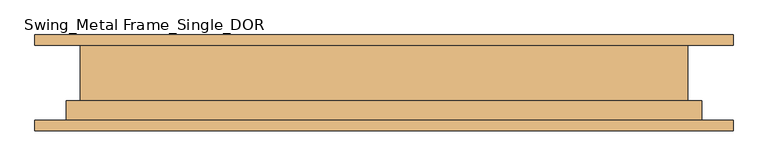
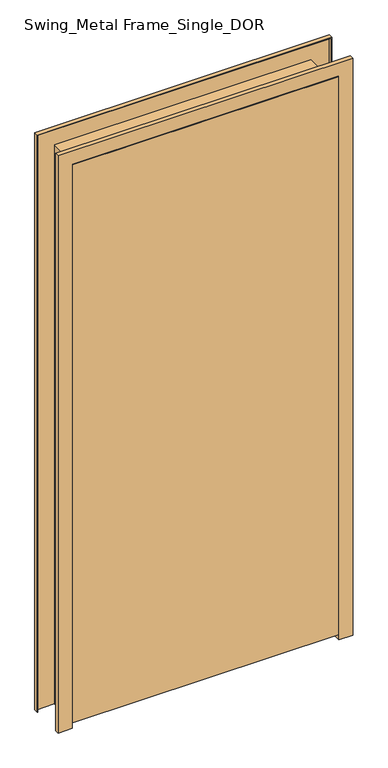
"""IFC4 building model written with IfcOpenShell, lengths in millimetres: door geometry, Swing_Metal Frame_Single_DOR : 2040h x 920 (2110x1020 STUD)."""

from ifc_helpers import new_model, si_unit, frame, origin, place, context, project, spatial, polyline, outline, extrude, faceted_brep, source, transform, mapped, element, save


def swing_metal_frame_single_dor_b69e6ea5(model_context):
    return source(origin(), model_context, "Body", "SolidModel", [
        extrude(outline(polyline([(460.0, -70.0), (-460.0, -70.0), (-460.0, -30.0), (460.0, -30.0), (460.0, -70.0)])), frame((0.0, 0.0, 20.0), z_axis=(0.0, 0.0, 1.0), x_axis=(1.0, 0.0, 0.0)), (0.0, 0.0, 1.0), 2040.0),
        faceted_brep([(-510.0, 70.0, 0.0), (-442.0, 70.0, 0.0), (-442.0, -28.0, 0.0), (-462.0, -28.0, 0.0), (-462.0, -70.0, 0.0), (-510.0, -70.0, 0.0), (-510.0, -55.0, 0.0), (-508.0, -55.0, 0.0), (-508.0, -68.0, 0.0), (-464.0, -68.0, 0.0), (-464.0, -26.0, 0.0), (-444.0, -26.0, 0.0), (-444.0, 68.0, 0.0), (-508.0, 68.0, 0.0), (-508.0, 55.0, 0.0), (-510.0, 55.0, 0.0), (-510.0, 55.0, 2110.0), (-510.0, 70.0, 2110.0), (-508.0, 55.0, 2108.0), (508.0, 55.0, 2108.0), (508.0, 55.0, 0.0), (510.0, 55.0, 0.0), (510.0, 55.0, 2110.0), (-508.0, 68.0, 2108.0), (-444.0, 68.0, 2044.0), (444.0, 68.0, 2044.0), (444.0, 68.0, 0.0), (508.0, 68.0, 0.0), (508.0, 68.0, 2108.0), (-444.0, -26.0, 2044.0), (-464.0, -26.0, 2064.0), (464.0, -26.0, 2064.0), (464.0, -26.0, 0.0), (444.0, -26.0, 0.0), (444.0, -26.0, 2044.0), (-464.0, -68.0, 2064.0), (-508.0, -68.0, 2108.0), (508.0, -68.0, 2108.0), (508.0, -68.0, 0.0), (464.0, -68.0, 0.0), (464.0, -68.0, 2064.0), (-508.0, -55.0, 2108.0), (-510.0, -55.0, 2110.0), (510.0, -55.0, 2110.0), (510.0, -55.0, 0.0), (508.0, -55.0, 0.0), (508.0, -55.0, 2108.0), (-510.0, -70.0, 2110.0), (-462.0, -70.0, 2062.0), (462.0, -70.0, 2062.0), (462.0, -70.0, 0.0), (510.0, -70.0, 0.0), (510.0, -70.0, 2110.0), (-462.0, -28.0, 2062.0), (-442.0, -28.0, 2042.0), (442.0, -28.0, 2042.0), (442.0, -28.0, 0.0), (462.0, -28.0, 0.0), (462.0, -28.0, 2062.0), (-442.0, 70.0, 2042.0), (510.0, 70.0, 2110.0), (510.0, 70.0, 0.0), (442.0, 70.0, 0.0), (442.0, 70.0, 2042.0)], [[[0, 1, 2, 3, 4, 5, 6, 7, 8, 9, 10, 11, 12, 13, 14, 15]], [[15, 16, 17, 0]], [[14, 18, 19, 20, 21, 22, 16, 15]], [[13, 23, 18, 14]], [[12, 24, 25, 26, 27, 28, 23, 13]], [[11, 29, 24, 12]], [[10, 30, 31, 32, 33, 34, 29, 11]], [[9, 35, 30, 10]], [[8, 36, 37, 38, 39, 40, 35, 9]], [[7, 41, 36, 8]], [[6, 42, 43, 44, 45, 46, 41, 7]], [[5, 47, 42, 6]], [[4, 48, 49, 50, 51, 52, 47, 5]], [[3, 53, 48, 4]], [[2, 54, 55, 56, 57, 58, 53, 3]], [[1, 59, 54, 2]], [[0, 17, 60, 61, 62, 63, 59, 1]], [[22, 21, 61, 60]], [[61, 21, 20, 27, 26, 33, 32, 39, 38, 45, 44, 51, 50, 57, 56, 62]], [[28, 27, 20, 19]], [[34, 33, 26, 25]], [[40, 39, 32, 31]], [[46, 45, 38, 37]], [[52, 51, 44, 43]], [[58, 57, 50, 49]], [[63, 62, 56, 55]], [[16, 22, 60, 17]], [[23, 28, 19, 18]], [[29, 34, 25, 24]], [[35, 40, 31, 30]], [[41, 46, 37, 36]], [[47, 52, 43, 42]], [[53, 58, 49, 48]], [[59, 63, 55, 54]]]),
    ])


if __name__ == "__main__":
    model = new_model("IFC4")
    model_context = context("Model", 3, world=origin())
    ifc_project = project(units=[si_unit("LENGTHUNIT", "METRE", prefix="MILLI")], contexts=[model_context])
    site = spatial("IfcSite", under=ifc_project)
    building = spatial("IfcBuilding", under=site)
    placement = place(None, origin())
    swing_metal_frame_single_dor_shape = swing_metal_frame_single_dor_b69e6ea5(model_context)
    element("IfcDoor", 1, ObjectType="Swing_Metal Frame_Single_DOR : 2040h x 920 (2110x1020 STUD)", at=placement, inside=building, context=model_context, shape_type="MappedRepresentation", body=[
        mapped(swing_metal_frame_single_dor_shape, transform((0.0, 0.0, 0.0), x_axis=(1.0, 0.0, 0.0), y_axis=(0.0, 1.0, 0.0), z_axis=(0.0, 0.0, 1.0))),
    ])
    save(model, "model.ifc")
